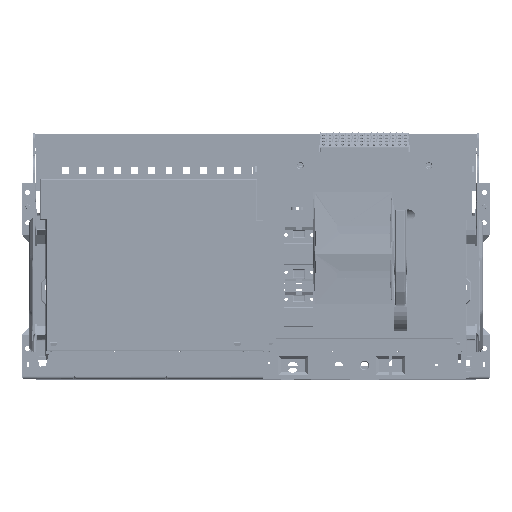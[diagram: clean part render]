
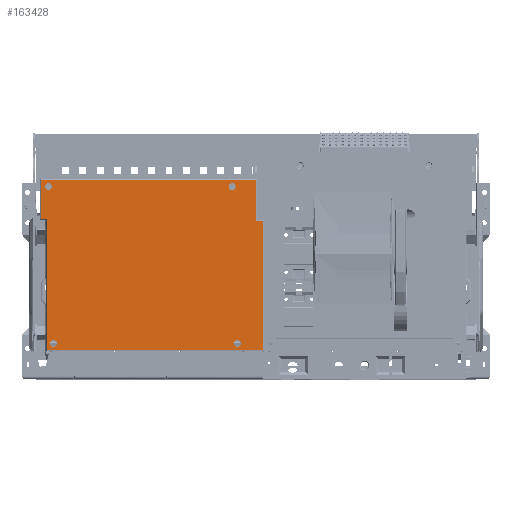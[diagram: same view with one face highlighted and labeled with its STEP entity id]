
A CAD part, top view. The second image highlights one B-rep face of the part: STEP entity #163428.
In plain terms, the highlighted planar face has unit normal (0, 0, 1) as drawn and (0, 1, 0) by its records, which use the part's own axes.
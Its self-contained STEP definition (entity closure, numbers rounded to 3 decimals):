
#162183=CARTESIAN_POINT('',(14.5,78.,-136.5));
#162184=DIRECTION('',(0.,1.,0.));
#162185=DIRECTION('',(1.,0.,0.));
#162186=AXIS2_PLACEMENT_3D('',#162183,#162184,#162185);
#162191=CARTESIAN_POINT('',(14.5,78.,-136.5));
#162192=DIRECTION('',(0.,1.,0.));
#162193=DIRECTION('',(-1.,0.,0.));
#162194=AXIS2_PLACEMENT_3D('',#162191,#162192,#162193);
#162199=CARTESIAN_POINT('',(334.5,78.,-136.5));
#162200=DIRECTION('',(0.,1.,0.));
#162201=DIRECTION('',(1.,0.,0.));
#162202=AXIS2_PLACEMENT_3D('',#162199,#162200,#162201);
#162207=CARTESIAN_POINT('',(334.5,78.,-136.5));
#162208=DIRECTION('',(0.,1.,0.));
#162209=DIRECTION('',(-1.,0.,0.));
#162210=AXIS2_PLACEMENT_3D('',#162207,#162208,#162209);
#162215=CARTESIAN_POINT('',(23.5,78.,136.5));
#162216=DIRECTION('',(0.,1.,0.));
#162217=DIRECTION('',(1.,0.,0.));
#162218=AXIS2_PLACEMENT_3D('',#162215,#162216,#162217);
#162223=CARTESIAN_POINT('',(23.5,78.,136.5));
#162224=DIRECTION('',(0.,1.,0.));
#162225=DIRECTION('',(-1.,0.,0.));
#162226=AXIS2_PLACEMENT_3D('',#162223,#162224,#162225);
#162231=CARTESIAN_POINT('',(343.5,78.,136.5));
#162232=DIRECTION('',(0.,1.,0.));
#162233=DIRECTION('',(1.,0.,0.));
#162234=AXIS2_PLACEMENT_3D('',#162231,#162232,#162233);
#162239=CARTESIAN_POINT('',(343.5,78.,136.5));
#162240=DIRECTION('',(0.,1.,0.));
#162241=DIRECTION('',(-1.,0.,0.));
#162242=AXIS2_PLACEMENT_3D('',#162239,#162240,#162241);
#162875=DIRECTION('',(0.,0.,-1.));
#162876=VECTOR('',#162875,226.);
#162877=CARTESIAN_POINT('',(387.5,78.,148.5));
#162878=LINE('',#162877,#162876);
#162901=DIRECTION('',(-1.,0.,0.));
#162902=VECTOR('',#162901,11.);
#162903=CARTESIAN_POINT('',(387.5,78.,-77.5));
#162904=LINE('',#162903,#162902);
#162927=DIRECTION('',(0.,0.,-1.));
#162928=VECTOR('',#162927,71.);
#162929=CARTESIAN_POINT('',(376.5,78.,-77.5));
#162930=LINE('',#162929,#162928);
#162953=DIRECTION('',(-1.,0.,0.));
#162954=VECTOR('',#162953,375.);
#162955=CARTESIAN_POINT('',(376.5,78.,-148.5));
#162956=LINE('',#162955,#162954);
#162991=DIRECTION('',(0.,0.,1.));
#162992=VECTOR('',#162991,68.);
#162993=CARTESIAN_POINT('',(1.5,78.,-148.5));
#162994=LINE('',#162993,#162992);
#163005=DIRECTION('',(1.,0.,0.));
#163006=VECTOR('',#163005,11.);
#163007=CARTESIAN_POINT('',(1.5,78.,-80.5));
#163008=LINE('',#163007,#163006);
#163031=DIRECTION('',(0.,0.,1.));
#163032=VECTOR('',#163031,229.);
#163033=CARTESIAN_POINT('',(12.5,78.,-80.5));
#163034=LINE('',#163033,#163032);
#163057=DIRECTION('',(1.,0.,0.));
#163058=VECTOR('',#163057,375.);
#163059=CARTESIAN_POINT('',(12.5,78.,148.5));
#163060=LINE('',#163059,#163058);
#163269=CARTESIAN_POINT('',(20.5,78.,-136.5));
#163270=CARTESIAN_POINT('',(8.5,78.,-136.5));
#163271=VERTEX_POINT('',#163269);
#163272=VERTEX_POINT('',#163270);
#163273=CARTESIAN_POINT('',(340.5,78.,-136.5));
#163274=CARTESIAN_POINT('',(328.5,78.,-136.5));
#163275=VERTEX_POINT('',#163273);
#163276=VERTEX_POINT('',#163274);
#163277=CARTESIAN_POINT('',(29.5,78.,136.5));
#163278=CARTESIAN_POINT('',(17.5,78.,136.5));
#163279=VERTEX_POINT('',#163277);
#163280=VERTEX_POINT('',#163278);
#163281=CARTESIAN_POINT('',(349.5,78.,136.5));
#163282=CARTESIAN_POINT('',(337.5,78.,136.5));
#163283=VERTEX_POINT('',#163281);
#163284=VERTEX_POINT('',#163282);
#163333=CARTESIAN_POINT('',(376.5,78.,-148.5));
#163334=CARTESIAN_POINT('',(1.5,78.,-148.5));
#163335=VERTEX_POINT('',#163333);
#163336=VERTEX_POINT('',#163334);
#163341=CARTESIAN_POINT('',(1.5,78.,-80.5));
#163342=VERTEX_POINT('',#163341);
#163345=CARTESIAN_POINT('',(12.5,78.,-80.5));
#163346=VERTEX_POINT('',#163345);
#163349=CARTESIAN_POINT('',(12.5,78.,148.5));
#163350=VERTEX_POINT('',#163349);
#163353=CARTESIAN_POINT('',(387.5,78.,148.5));
#163354=VERTEX_POINT('',#163353);
#163357=CARTESIAN_POINT('',(387.5,78.,-77.5));
#163358=VERTEX_POINT('',#163357);
#163361=CARTESIAN_POINT('',(376.5,78.,-77.5));
#163362=VERTEX_POINT('',#163361);
#163381=CARTESIAN_POINT('',(0.,78.,0.));
#163382=DIRECTION('',(0.,1.,0.));
#163383=DIRECTION('',(1.,0.,0.));
#163384=AXIS2_PLACEMENT_3D('',#163381,#163382,#163383);
#163385=PLANE('',#163384);
#163387=ORIENTED_EDGE('',*,*,#163386,.F.);
#163389=ORIENTED_EDGE('',*,*,#163388,.F.);
#163391=ORIENTED_EDGE('',*,*,#163390,.F.);
#163393=ORIENTED_EDGE('',*,*,#163392,.F.);
#163395=ORIENTED_EDGE('',*,*,#163394,.F.);
#163397=ORIENTED_EDGE('',*,*,#163396,.F.);
#163399=ORIENTED_EDGE('',*,*,#163398,.F.);
#163401=ORIENTED_EDGE('',*,*,#163400,.F.);
#163402=EDGE_LOOP('',(#163387,#163389,#163391,#163393,#163395,#163397,#163399,
#163401));
#163403=FACE_OUTER_BOUND('',#163402,.F.);
#163405=ORIENTED_EDGE('',*,*,#163404,.T.);
#163407=ORIENTED_EDGE('',*,*,#163406,.T.);
#163408=EDGE_LOOP('',(#163405,#163407));
#163409=FACE_BOUND('',#163408,.F.);
#163411=ORIENTED_EDGE('',*,*,#163410,.T.);
#163413=ORIENTED_EDGE('',*,*,#163412,.T.);
#163414=EDGE_LOOP('',(#163411,#163413));
#163415=FACE_BOUND('',#163414,.F.);
#163417=ORIENTED_EDGE('',*,*,#163416,.T.);
#163419=ORIENTED_EDGE('',*,*,#163418,.T.);
#163420=EDGE_LOOP('',(#163417,#163419));
#163421=FACE_BOUND('',#163420,.F.);
#163423=ORIENTED_EDGE('',*,*,#163422,.T.);
#163425=ORIENTED_EDGE('',*,*,#163424,.T.);
#163426=EDGE_LOOP('',(#163423,#163425));
#163427=FACE_BOUND('',#163426,.F.);
#163428=ADVANCED_FACE('',(#163403,#163409,#163415,#163421,#163427),#163385,.T.);
#162187=CIRCLE('',#162186,6.);
#162195=CIRCLE('',#162194,6.);
#162203=CIRCLE('',#162202,6.);
#162211=CIRCLE('',#162210,6.);
#162219=CIRCLE('',#162218,6.);
#162227=CIRCLE('',#162226,6.);
#162235=CIRCLE('',#162234,6.);
#162243=CIRCLE('',#162242,6.);
#163386=EDGE_CURVE('',#163335,#163336,#162956,.T.);
#163388=EDGE_CURVE('',#163362,#163335,#162930,.T.);
#163390=EDGE_CURVE('',#163358,#163362,#162904,.T.);
#163392=EDGE_CURVE('',#163354,#163358,#162878,.T.);
#163394=EDGE_CURVE('',#163350,#163354,#163060,.T.);
#163396=EDGE_CURVE('',#163346,#163350,#163034,.T.);
#163398=EDGE_CURVE('',#163342,#163346,#163008,.T.);
#163400=EDGE_CURVE('',#163336,#163342,#162994,.T.);
#163404=EDGE_CURVE('',#163275,#163276,#162203,.T.);
#163406=EDGE_CURVE('',#163276,#163275,#162211,.T.);
#163410=EDGE_CURVE('',#163279,#163280,#162219,.T.);
#163412=EDGE_CURVE('',#163280,#163279,#162227,.T.);
#163416=EDGE_CURVE('',#163283,#163284,#162235,.T.);
#163418=EDGE_CURVE('',#163284,#163283,#162243,.T.);
#163422=EDGE_CURVE('',#163271,#163272,#162187,.T.);
#163424=EDGE_CURVE('',#163272,#163271,#162195,.T.);
